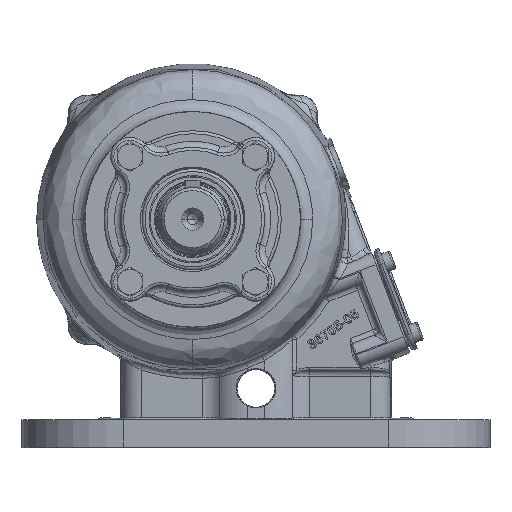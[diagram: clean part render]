
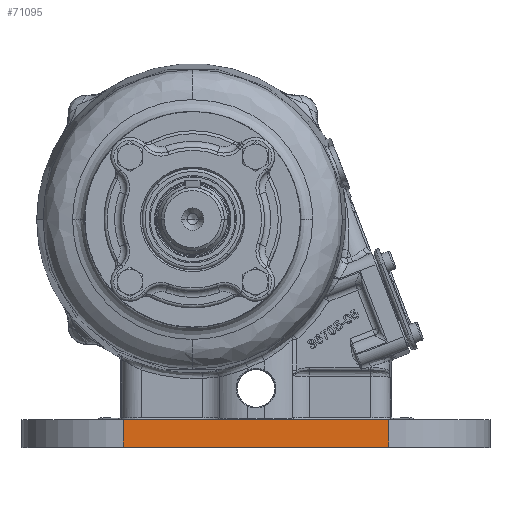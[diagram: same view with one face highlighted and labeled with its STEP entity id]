
A CAD part, top view. The second image highlights one B-rep face of the part: STEP entity #71095.
In plain terms, the highlighted planar face has unit normal (0, 0, 1).
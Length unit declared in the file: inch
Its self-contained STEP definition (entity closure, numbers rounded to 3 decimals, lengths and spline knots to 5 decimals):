
#7032 = DIRECTION ( 'NONE',  ( 0., -1., 0. ) ) ;
#15971 = AXIS2_PLACEMENT_3D ( 'NONE', #137686, #50599, #7032 ) ;
#23710 = CARTESIAN_POINT ( 'NONE',  ( 2.62, -0.895, 3.5 ) ) ;
#25433 = CARTESIAN_POINT ( 'NONE',  ( 2.62, -0.625, 3.5 ) ) ;
#30954 = CARTESIAN_POINT ( 'NONE',  ( -2.62, -0.895, 3.5 ) ) ;
#32736 = ORIENTED_EDGE ( 'NONE', *, *, #167196, .T. ) ;
#33498 = DIRECTION ( 'NONE',  ( -1., 0., 0. ) ) ;
#34462 = EDGE_CURVE ( 'NONE', #163127, #164916, #129574, .T. ) ;
#38837 = DIRECTION ( 'NONE',  ( 0., 1., 0. ) ) ;
#39778 = LINE ( 'NONE', #23710, #164820 ) ;
#47804 = FACE_OUTER_BOUND ( 'NONE', #53438, .T. ) ;
#50599 = DIRECTION ( 'NONE',  ( 0., 0., 1. ) ) ;
#53438 = EDGE_LOOP ( 'NONE', ( #68449, #168272, #166247, #32736 ) ) ;
#65730 = PLANE ( 'NONE',  #15971 ) ;
#68449 = ORIENTED_EDGE ( 'NONE', *, *, #139108, .T. ) ;
#69941 = DIRECTION ( 'NONE',  ( -1., 0., 0. ) ) ;
#70515 = VERTEX_POINT ( 'NONE', #25433 ) ;
#71095 = ADVANCED_FACE ( 'NONE', ( #47804 ), #65730, .T. ) ;
#72038 = VECTOR ( 'NONE', #69941, 39.37008 ) ;
#74462 = DIRECTION ( 'NONE',  ( 0., 1., 0. ) ) ;
#87735 = LINE ( 'NONE', #30954, #128400 ) ;
#98732 = VECTOR ( 'NONE', #33498, 39.37008 ) ;
#109643 = CARTESIAN_POINT ( 'NONE',  ( -2.62, -0.625, 3.5 ) ) ;
#119679 = LINE ( 'NONE', #132922, #98732 ) ;
#124497 = CARTESIAN_POINT ( 'NONE',  ( 2.62, -1.165, 3.5 ) ) ;
#128400 = VECTOR ( 'NONE', #74462, 39.37008 ) ;
#129574 = LINE ( 'NONE', #185452, #72038 ) ;
#131003 = CARTESIAN_POINT ( 'NONE',  ( -2.62, -1.165, 3.5 ) ) ;
#132922 = CARTESIAN_POINT ( 'NONE',  ( -2.62, -0.625, 3.5 ) ) ;
#137686 = CARTESIAN_POINT ( 'NONE',  ( -2.62, -0.895, 3.5 ) ) ;
#139108 = EDGE_CURVE ( 'NONE', #70515, #181354, #119679, .T. ) ;
#163127 = VERTEX_POINT ( 'NONE', #124497 ) ;
#164820 = VECTOR ( 'NONE', #38837, 39.37008 ) ;
#164916 = VERTEX_POINT ( 'NONE', #131003 ) ;
#166247 = ORIENTED_EDGE ( 'NONE', *, *, #34462, .F. ) ;
#167196 = EDGE_CURVE ( 'NONE', #163127, #70515, #39778, .T. ) ;
#168272 = ORIENTED_EDGE ( 'NONE', *, *, #168378, .F. ) ;
#168378 = EDGE_CURVE ( 'NONE', #164916, #181354, #87735, .T. ) ;
#181354 = VERTEX_POINT ( 'NONE', #109643 ) ;
#185452 = CARTESIAN_POINT ( 'NONE',  ( 0., -1.165, 3.5 ) ) ;
